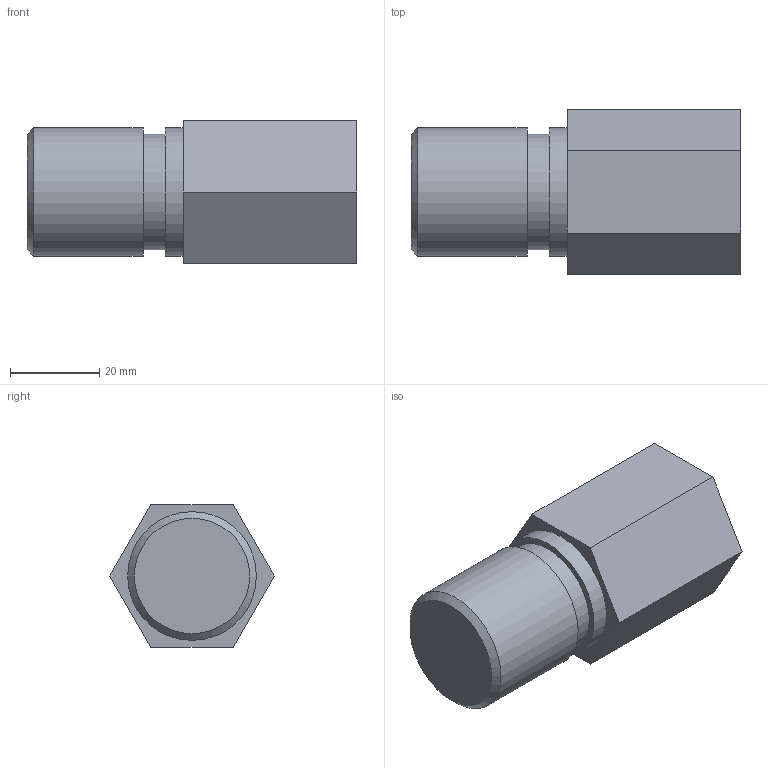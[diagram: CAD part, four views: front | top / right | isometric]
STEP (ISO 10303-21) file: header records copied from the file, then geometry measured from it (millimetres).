
FILE_DESCRIPTION((''),'2;1');
FILE_NAME('Z:\客先\あ行\アオイ\99_その他\3D_DATA\CPR_Series\6CPR-SPV-RC\STEP\203\CPR-SPV-RC3-4.ipt.stp','2008-07-02T09:53:47',(''),(''),'Autodesk Inventor 2009','Autodesk Inventor 2009','');
FILE_SCHEMA(('CONFIG_CONTROL_DESIGN'));
Length unit declared in the file: millimetre
Products named in the file (1): CPR-SPV-RC3-4
Bounding box: 74 x 36.95 x 32 mm (x, y, z)
Volume: 46334.8 mm3; surface area: 10929.9 mm2
Topology: 1 solids, 1 shells, 17 faces, 32 edges, 21 vertices
Faces by surface type: plane 12, cylinder 3, cone 2
Full cylindrical faces by diameter (mm): 26 x1, 28.9 x2
Entity records: 419 total; most frequent: DIRECTION 72, CARTESIAN_POINT 66, ORIENTED_EDGE 54, AXIS2_PLACEMENT_3D 27, EDGE_CURVE 27, EDGE_LOOP 26, VERTEX_POINT 21, VECTOR 18
